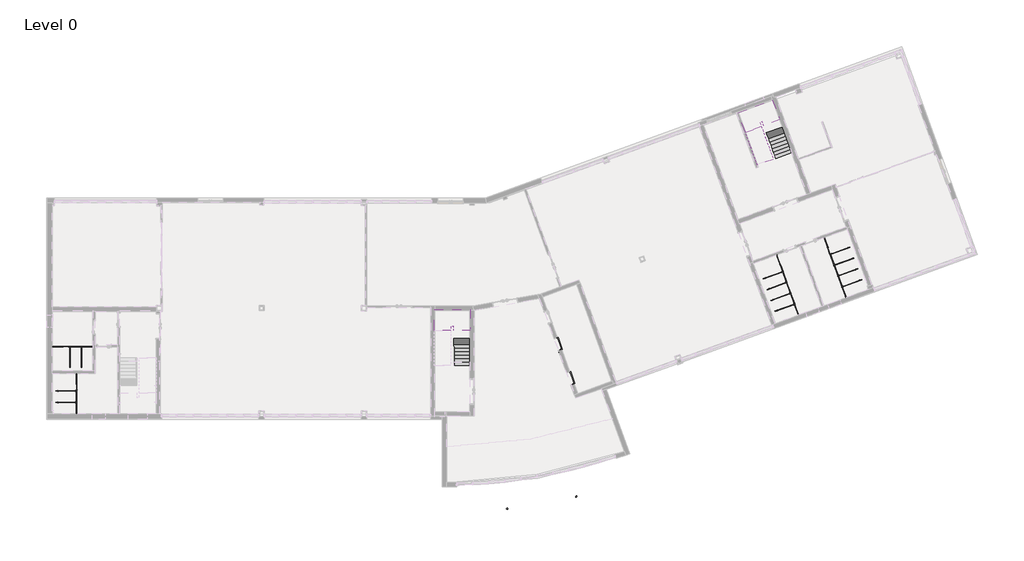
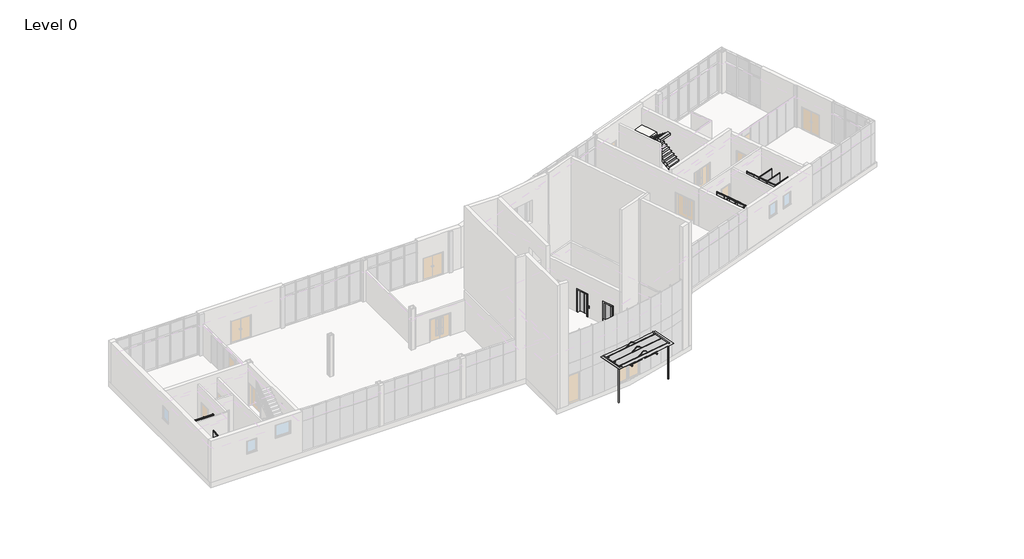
# One storey, part 14 of 14: 20 flow terminals, 3 proxies, 3 stair flights, 2 slabs.
"""IFC4 building model written with IfcOpenShell, lengths in millimetres."""

from ifc_helpers import new_model, si_unit, frame, origin, place, context, project, spatial, polyline, outline, extrude, faceted_brep, transform, mapped, element, save
from components import commercial_canopy_entrance_cladding_canopy_659b45ad, specialty_equipment_lift_assembly_13_person_wide_car_fb916a52, flow_terminal_2100mm_height_12b2e6eb, flow_terminal_2100mm_height_2c32aa6e, flow_terminal_2100mm_height_1f2eed72, flow_terminal_2100mm_height_0595ce71, flow_terminal_2100mm_height_6680c838, plumbing_fixtures_cubicle_corner_end_2100mm_height_8010d271, plumbing_fixtures_cubicle_corner_end_2100mm_height_71efdfa1

model = new_model("IFC4")

# Units and contexts
model_context = context("Model", 3, world=origin())
ifc_project = project(units=[si_unit("LENGTHUNIT", "METRE", prefix="MILLI")], contexts=[model_context])

# Site, building, storey
site = spatial("IfcSite", under=ifc_project)
building = spatial("IfcBuilding", under=site)
storey = spatial("IfcBuildingStorey", under=building, Name="Level 0", Elevation=0.0)

# Proxies
placement = place(None, origin())
commercial_canopy_entrance_cladding_canopy_shape = commercial_canopy_entrance_cladding_canopy_659b45ad(model_context)
element("IfcBuildingElementProxy", 1, Name="Commercial_Canopy_Entrance : Cladding_Canopy", ObjectType="Commercial_Canopy_Entrance : Cladding_Canopy", at=placement, inside=storey, context=model_context, shape_type="MappedRepresentation", body=[
    mapped(commercial_canopy_entrance_cladding_canopy_shape, transform((35218.8424739, -4156.0059595, 0.0), x_axis=(0.984821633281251, 0.1735694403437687, 0.0), y_axis=(-0.1735694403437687, 0.984821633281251, 0.0), z_axis=(0.0, 0.0, 1.0))),
])
specialty_equipment_lift_assembly_13_person_wide_car_shape = specialty_equipment_lift_assembly_13_person_wide_car_fb916a52(model_context)
element("IfcBuildingElementProxy", 2, Name="Specialty_Equipment_Lift_Assembly : 13_Person-Wide_Car", ObjectType="Specialty_Equipment_Lift_Assembly : 13_Person-Wide_Car", at=placement, inside=storey, context=model_context, shape_type="MappedRepresentation", body=[
    mapped(specialty_equipment_lift_assembly_13_person_wide_car_shape, transform((36402.6729068, 5528.4769863, 0.0), x_axis=(-0.34202014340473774, 0.9396926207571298, 0.0), y_axis=(-0.9396926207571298, -0.34202014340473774, 0.0), z_axis=(0.0, 0.0, 1.0))),
])
element("IfcBuildingElementProxy", 3, Name="Specialty_Equipment_Lift_Assembly : 13_Person-Wide_Car", ObjectType="Specialty_Equipment_Lift_Assembly : 13_Person-Wide_Car", at=placement, inside=storey, context=model_context, shape_type="MappedRepresentation", body=[
    mapped(specialty_equipment_lift_assembly_13_person_wide_car_shape, transform((37291.5468022, 3086.3160308, 0.0), x_axis=(-0.34202014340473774, 0.9396926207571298, 0.0), y_axis=(-0.9396926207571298, -0.34202014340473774, 0.0), z_axis=(0.0, 0.0, 1.0))),
])

# Flow terminals
flow_terminal_2100mm_height_shape = flow_terminal_2100mm_height_12b2e6eb(model_context)
element("IfcFlowTerminal", 4, ObjectType="Plumbing_Fixtures_Toilet_Cubicle_End_Adjacent_Wall : 2100mm_Height", at=placement, inside=storey, context=model_context, shape_type="MappedRepresentation", body=[
    mapped(flow_terminal_2100mm_height_shape, transform((50541.393351, 10685.9180507, 0.0), x_axis=(-0.3420201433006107, 0.9396926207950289, 0.0), y_axis=(-0.9396926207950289, -0.3420201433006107, 0.0), z_axis=(0.0, 0.0, 1.0))),
])
element("IfcFlowTerminal", 5, ObjectType="Plumbing_Fixtures_Toilet_Cubicle_End_Adjacent_Wall : 2100mm_Height", at=placement, inside=storey, context=model_context, shape_type="MappedRepresentation", body=[
    mapped(flow_terminal_2100mm_height_shape, transform((383.0, 2814.5689301, 0.0), x_axis=(2.5442148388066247e-11, 1.0, 0.0), y_axis=(-1.0, 2.5442148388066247e-11, 0.0), z_axis=(0.0, 0.0, 1.0))),
])
element("IfcFlowTerminal", 6, ObjectType="Plumbing_Fixtures_Toilet_Cubicle_End_Adjacent_Wall : 2100mm_Height", at=placement, inside=storey, context=model_context, shape_type="MappedRepresentation", body=[
    mapped(flow_terminal_2100mm_height_shape, transform((830.9310712, 3326.5000005, 0.0), x_axis=(-1.0, 2.5443536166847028e-11, 0.0), y_axis=(-2.5443536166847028e-11, -1.0, 0.0), z_axis=(0.0, 0.0, 1.0))),
])
flow_terminal_2100mm_height_2_shape = flow_terminal_2100mm_height_2c32aa6e(model_context)
element("IfcFlowTerminal", 7, ObjectType="Plumbing_Fixtures_Toilet_Cubicle_End_Adjacent_Wall : 2100mm_Height", at=placement, inside=storey, context=model_context, shape_type="MappedRepresentation", body=[
    mapped(flow_terminal_2100mm_height_2_shape, transform((57283.6879051, 13139.9125789, 0.0), x_axis=(-0.3420201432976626, 0.9396926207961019, 0.0), y_axis=(-0.9396926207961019, -0.3420201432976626, 0.0), z_axis=(0.0, 0.0, 1.0))),
])
flow_terminal_2100mm_height_3_shape = flow_terminal_2100mm_height_1f2eed72(model_context)
element("IfcFlowTerminal", 8, ObjectType="Plumbing_Fixtures_Toile_Cubicle_Extension_Panel : 2100mm_Height", at=placement, inside=storey, context=model_context, shape_type="MappedRepresentation", body=[
    mapped(flow_terminal_2100mm_height_3_shape, transform((50976.9218015, 9489.3134675, 0.0), x_axis=(-0.34202014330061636, 0.9396926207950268, 0.0), y_axis=(-0.9396926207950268, -0.34202014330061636, 0.0), z_axis=(0.0, 0.0, 1.0))),
])
flow_terminal_2100mm_height_4_shape = flow_terminal_2100mm_height_0595ce71(model_context)
element("IfcFlowTerminal", 9, ObjectType="Plumbing_Fixtures_Toile_Cubicle_Extension_Panel : 2100mm_Height", at=placement, inside=storey, context=model_context, shape_type="MappedRepresentation", body=[
    mapped(flow_terminal_2100mm_height_4_shape, transform((57719.2163556, 11943.3079956, 0.0), x_axis=(-0.3420201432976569, 0.9396926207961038, 0.0), y_axis=(-0.9396926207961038, -0.3420201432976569, 0.0), z_axis=(0.0, 0.0, 1.0))),
])
flow_terminal_2100mm_height_5_shape = flow_terminal_2100mm_height_6680c838(model_context)
element("IfcFlowTerminal", 10, ObjectType="Plumbing_Fixtures_Toile_Cubicle_Extension_Panel : 2100mm_Height", at=placement, inside=storey, context=model_context, shape_type="MappedRepresentation", body=[
    mapped(flow_terminal_2100mm_height_5_shape, transform((383.0, 1565.0689299, 0.0), x_axis=(0.0, 1.0, 0.0), y_axis=(-1.0, 0.0, 0.0), z_axis=(0.0, 0.0, 1.0))),
])
element("IfcFlowTerminal", 11, ObjectType="Plumbing_Fixtures_Toile_Cubicle_Extension_Panel : 2100mm_Height", at=placement, inside=storey, context=model_context, shape_type="MappedRepresentation", body=[
    mapped(flow_terminal_2100mm_height_5_shape, transform((2080.4310713, 3326.5000005, 0.0), x_axis=(-1.0, 0.0, 0.0), y_axis=(0.0, -1.0, 0.0), z_axis=(0.0, 0.0, 1.0))),
])
plumbing_fixtures_cubicle_corner_end_2100mm_height_shape = plumbing_fixtures_cubicle_corner_end_2100mm_height_8010d271(model_context)
element("IfcFlowTerminal", 12, ObjectType="Plumbing_Fixtures_Cubicle_Corner_End : 2100mm_Height", at=placement, inside=storey, context=model_context, shape_type="MappedRepresentation", body=[
    mapped(plumbing_fixtures_cubicle_corner_end_2100mm_height_shape, transform((58572.2617435, 9599.5850544, 0.0), x_axis=(0.3420201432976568, -0.9396926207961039, 0.0), y_axis=(0.9396926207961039, 0.3420201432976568, 0.0), z_axis=(0.0, 0.0, 1.0))),
])
element("IfcFlowTerminal", 13, ObjectType="Plumbing_Fixtures_Cubicle_Corner_End : 2100mm_Height", at=placement, inside=storey, context=model_context, shape_type="MappedRepresentation", body=[
    mapped(plumbing_fixtures_cubicle_corner_end_2100mm_height_shape, transform((58291.805226, 10370.1330034, 0.0), x_axis=(0.3420201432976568, -0.9396926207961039, 0.0), y_axis=(0.9396926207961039, 0.3420201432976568, 0.0), z_axis=(0.0, 0.0, 1.0))),
])
element("IfcFlowTerminal", 14, ObjectType="Plumbing_Fixtures_Cubicle_Corner_End : 2100mm_Height", at=placement, inside=storey, context=model_context, shape_type="MappedRepresentation", body=[
    mapped(plumbing_fixtures_cubicle_corner_end_2100mm_height_shape, transform((58011.3487085, 11140.6809525, 0.0), x_axis=(0.3420201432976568, -0.9396926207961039, 0.0), y_axis=(0.9396926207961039, 0.3420201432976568, 0.0), z_axis=(0.0, 0.0, 1.0))),
])
element("IfcFlowTerminal", 15, ObjectType="Plumbing_Fixtures_Cubicle_Corner_End : 2100mm_Height", at=placement, inside=storey, context=model_context, shape_type="MappedRepresentation", body=[
    mapped(plumbing_fixtures_cubicle_corner_end_2100mm_height_shape, transform((57730.892191, 11911.2289015, 0.0), x_axis=(0.3420201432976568, -0.9396926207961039, 0.0), y_axis=(0.9396926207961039, 0.3420201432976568, 0.0), z_axis=(0.0, 0.0, 1.0))),
])
plumbing_fixtures_cubicle_corner_end_2100mm_height_2_shape = plumbing_fixtures_cubicle_corner_end_2100mm_height_71efdfa1(model_context)
element("IfcFlowTerminal", 16, ObjectType="Plumbing_Fixtures_Cubicle_Corner_End : 2100mm_Height", at=placement, inside=storey, context=model_context, shape_type="MappedRepresentation", body=[
    mapped(plumbing_fixtures_cubicle_corner_end_2100mm_height_2_shape, transform((51829.9671894, 7145.5905262, 0.0), x_axis=(0.3420201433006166, -0.9396926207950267, 0.0), y_axis=(0.9396926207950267, 0.3420201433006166, 0.0), z_axis=(0.0, 0.0, 1.0))),
])
element("IfcFlowTerminal", 17, ObjectType="Plumbing_Fixtures_Cubicle_Corner_End : 2100mm_Height", at=placement, inside=storey, context=model_context, shape_type="MappedRepresentation", body=[
    mapped(plumbing_fixtures_cubicle_corner_end_2100mm_height_2_shape, transform((51549.5106719, 7916.1384753, 0.0), x_axis=(0.3420201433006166, -0.9396926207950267, 0.0), y_axis=(0.9396926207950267, 0.3420201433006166, 0.0), z_axis=(0.0, 0.0, 1.0))),
])
element("IfcFlowTerminal", 18, ObjectType="Plumbing_Fixtures_Cubicle_Corner_End : 2100mm_Height", at=placement, inside=storey, context=model_context, shape_type="MappedRepresentation", body=[
    mapped(plumbing_fixtures_cubicle_corner_end_2100mm_height_2_shape, transform((51269.0541544, 8686.6864243, 0.0), x_axis=(0.3420201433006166, -0.9396926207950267, 0.0), y_axis=(0.9396926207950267, 0.3420201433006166, 0.0), z_axis=(0.0, 0.0, 1.0))),
])
element("IfcFlowTerminal", 19, ObjectType="Plumbing_Fixtures_Cubicle_Corner_End : 2100mm_Height", at=placement, inside=storey, context=model_context, shape_type="MappedRepresentation", body=[
    mapped(plumbing_fixtures_cubicle_corner_end_2100mm_height_2_shape, transform((50988.5976369, 9457.2343734, 0.0), x_axis=(0.3420201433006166, -0.9396926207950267, 0.0), y_axis=(0.9396926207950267, 0.3420201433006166, 0.0), z_axis=(0.0, 0.0, 1.0))),
])
element("IfcFlowTerminal", 20, ObjectType="Plumbing_Fixtures_Cubicle_Corner_End : 2100mm_Height", at=placement, inside=storey, context=model_context, shape_type="MappedRepresentation", body=[
    mapped(plumbing_fixtures_cubicle_corner_end_2100mm_height_2_shape, transform((383.0, 710.9310711, 0.0), x_axis=(-2.5442148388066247e-11, -1.0, 0.0), y_axis=(1.0, -2.5442148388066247e-11, 0.0), z_axis=(0.0, 0.0, 1.0))),
])
element("IfcFlowTerminal", 21, ObjectType="Plumbing_Fixtures_Cubicle_Corner_End : 2100mm_Height", at=placement, inside=storey, context=model_context, shape_type="MappedRepresentation", body=[
    mapped(plumbing_fixtures_cubicle_corner_end_2100mm_height_2_shape, transform((383.0, 1530.9310711, 0.0), x_axis=(-2.5442148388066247e-11, -1.0, 0.0), y_axis=(1.0, -2.5442148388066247e-11, 0.0), z_axis=(0.0, 0.0, 1.0))),
])
element("IfcFlowTerminal", 22, ObjectType="Plumbing_Fixtures_Cubicle_Corner_End : 2100mm_Height", at=placement, inside=storey, context=model_context, shape_type="MappedRepresentation", body=[
    mapped(plumbing_fixtures_cubicle_corner_end_2100mm_height_2_shape, transform((2934.5689301, 3326.5000005, 0.0), x_axis=(1.0, -2.5443536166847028e-11, 0.0), y_axis=(2.5443536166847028e-11, 1.0, 0.0), z_axis=(0.0, 0.0, 1.0))),
])
element("IfcFlowTerminal", 23, ObjectType="Plumbing_Fixtures_Cubicle_Corner_End : 2100mm_Height", at=placement, inside=storey, context=model_context, shape_type="MappedRepresentation", body=[
    mapped(plumbing_fixtures_cubicle_corner_end_2100mm_height_2_shape, transform((2114.5689301, 3326.5000005, 0.0), x_axis=(1.0, -2.5443536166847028e-11, 0.0), y_axis=(2.5443536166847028e-11, 1.0, 0.0), z_axis=(0.0, 0.0, 1.0))),
])

# Slabs
element("IfcSlab", 24, ObjectType="8\" Thickness", at=placement, inside=storey, context=model_context, shape_type="SolidModel", body=[
    faceted_brep([(29052.2000029, 6263.2000006, 1949.0), (30252.200003, 6263.2000006, 1949.0), (30252.200003, 6490.4719159, 1949.0), (30252.200003, 7763.2000004, 1949.0), (27662.2000031, 7763.2000004, 1949.0), (27662.2000031, 6285.9280852, 1949.0), (27662.2000031, 6263.2000006, 1949.0), (28862.2000029, 6263.2000006, 1949.0), (28862.2000029, 6285.9280852, 1949.0), (28862.2000029, 6563.2000006, 1949.0), (29052.2000029, 6563.2000006, 1949.0), (29052.2000029, 6490.4719159, 1949.0), (29052.2000029, 6263.2000006, 1587.8435509), (29052.2000029, 6263.2000006, 1771.7272727), (29052.2000029, 6563.2000006, 1749.0), (29052.2000029, 6490.4719159, 1749.0), (30252.200003, 6263.2000006, 1771.7272727), (30252.200003, 6263.2000006, 1587.8435509), (30252.200003, 6490.4719159, 1749.0), (30252.200003, 7763.2000004, 1749.0), (28862.2000029, 6263.2000006, 1765.1162782), (28862.2000029, 6285.9280852, 1749.0), (28862.2000029, 6563.2000006, 1749.0), (27662.2000031, 6285.9280852, 1749.0), (27662.2000031, 7763.2000004, 1749.0), (27662.2000031, 6263.2000006, 1765.1162782)], [[[0, 1, 2, 3, 4, 5, 6, 7, 8, 9, 10, 11]], [[12, 13, 0, 11, 10, 14, 15]], [[1, 16, 17, 18, 19, 3, 2]], [[7, 20, 21, 22, 9, 8]], [[18, 15, 14, 22, 21, 23, 24, 19]], [[15, 18, 17, 12]], [[23, 21, 20, 25]], [[1, 0, 13, 12, 17, 16]], [[4, 3, 19, 24]], [[4, 24, 23, 25, 6, 5]], [[7, 6, 25, 20]], [[10, 9, 22, 14]]]),
    extrude(outline(polyline([(29052.2000029, 6263.2000006), (29052.2000029, 6563.2000006), (28862.2000029, 6563.2000006), (28862.2000029, 6263.2000006), (27662.2000031, 6263.2000006), (27662.2000031, 7763.2000004), (30252.200003, 7763.2000004), (30252.200003, 6263.2000006), (29052.2000029, 6263.2000006)])), frame((0.0, 0.0, 1949.0), z_axis=(0.0, 0.0, 1.0), x_axis=(1.0, 0.0, 0.0)), (0.0, 0.0, 1.0), 1.0),
])
element("IfcSlab", 25, ObjectType="8\" Thickness", at=placement, inside=storey, context=model_context, shape_type="SolidModel", body=[
    faceted_brep([(51174.021156, 20890.1085605, 1949.0), (52301.652301, 21300.5327324, 1949.0), (52223.920728, 21514.0984742, 1949.0), (51788.6220861, 22710.0716635, 1949.0), (49354.8181983, 21824.2394924, 1949.0), (49860.0749505, 20436.0579748, 1949.0), (49867.8484132, 20414.7005613, 1949.0), (50995.479558, 20825.1247332, 1949.0), (50987.7060952, 20846.4821467, 1949.0), (50892.873515, 21107.0325195, 1949.0), (51071.415113, 21172.0163467, 1949.0), (51096.2895829, 21103.6743022, 1949.0), (51174.021156, 20890.1085605, 1587.8435509), (51174.021156, 20890.1085605, 1771.7272727), (51071.415113, 21172.0163467, 1749.0), (51096.2895829, 21103.6743022, 1749.0), (52301.652301, 21300.5327324, 1771.7272727), (52301.652301, 21300.5327324, 1587.8435509), (52223.920728, 21514.0984742, 1749.0), (51788.6220861, 22710.0716635, 1749.0), (50995.479558, 20825.1247332, 1765.1162782), (50987.7060952, 20846.4821467, 1749.0), (50892.873515, 21107.0325195, 1749.0), (49860.0749505, 20436.0579748, 1749.0), (49354.8181983, 21824.2394924, 1749.0), (49867.8484132, 20414.7005613, 1765.1162782)], [[[0, 1, 2, 3, 4, 5, 6, 7, 8, 9, 10, 11]], [[12, 13, 0, 11, 10, 14, 15]], [[1, 16, 17, 18, 19, 3, 2]], [[7, 20, 21, 22, 9, 8]], [[18, 15, 14, 22, 21, 23, 24, 19]], [[15, 18, 17, 12]], [[23, 21, 20, 25]], [[1, 0, 13, 12, 17, 16]], [[4, 3, 19, 24]], [[4, 24, 23, 25, 6, 5]], [[7, 6, 25, 20]], [[10, 9, 22, 14]]]),
    extrude(outline(polyline([(51174.021156, 20890.1085605), (51071.415113, 21172.0163467), (50892.873515, 21107.0325195), (50995.479558, 20825.1247332), (49867.8484132, 20414.7005613), (49354.8181983, 21824.2394924), (51788.6220861, 22710.0716635), (52301.652301, 21300.5327324), (51174.021156, 20890.1085605)])), frame((0.0, 0.0, 1949.0), z_axis=(0.0, 0.0, 1.0), x_axis=(1.0, 0.0, 0.0)), (0.0, 0.0, 1.0), 1.0),
])

# Stair flights
element("IfcStairFlight", 26, ObjectType="1/16\"_Tread-6\"_Depth", at=placement, inside=storey, context=model_context, shape_type="SolidModel", body=[
    faceted_brep([(29052.2000029, 4013.2000006, 176.2727273), (29052.2000029, 3763.2000006, 176.2727273), (30252.200003, 3763.2000006, 176.2727273), (30252.200003, 4013.2000006, 176.2727273), (29052.2000029, 4013.2000006, 0.0), (29052.2000029, 3763.2000006, 0.0), (30252.200003, 3763.2000006, 0.0), (30252.200003, 4013.2000006, 0.0), (29052.2000029, 4263.2000006, 353.5454545), (29052.2000029, 4013.2000006, 353.5454545), (30252.200003, 4013.2000006, 353.5454545), (30252.200003, 4263.2000006, 353.5454545), (29052.2000029, 4263.2000006, 169.6617328), (29052.2000029, 4023.9334544, 0.0), (30252.200003, 4023.9334544, 0.0), (30252.200003, 4263.2000006, 169.6617328), (29052.2000029, 4513.2000006, 530.8181818), (29052.2000029, 4263.2000006, 530.8181818), (30252.200003, 4263.2000006, 530.8181818), (30252.200003, 4513.2000006, 530.8181818), (29052.2000029, 4513.2000006, 346.93446), (30252.200003, 4513.2000006, 346.93446), (29052.2000029, 4763.2000006, 708.0909091), (29052.2000029, 4513.2000006, 708.0909091), (30252.200003, 4513.2000006, 708.0909091), (30252.200003, 4763.2000006, 708.0909091), (29052.2000029, 4763.2000006, 524.2071873), (30252.200003, 4763.2000006, 524.2071873), (29052.2000029, 5013.2000006, 885.3636364), (29052.2000029, 4763.2000006, 885.3636364), (30252.200003, 4763.2000006, 885.3636364), (30252.200003, 5013.2000006, 885.3636364), (29052.2000029, 5013.2000006, 701.4799146), (30252.200003, 5013.2000006, 701.4799146), (29052.2000029, 5263.2000006, 1062.6363636), (29052.2000029, 5013.2000006, 1062.6363636), (30252.200003, 5013.2000006, 1062.6363636), (30252.200003, 5263.2000006, 1062.6363636), (29052.2000029, 5263.2000006, 878.7526418), (30252.200003, 5263.2000006, 878.7526418), (29052.2000029, 5513.2000006, 1239.9090909), (29052.2000029, 5263.2000006, 1239.9090909), (30252.200003, 5263.2000006, 1239.9090909), (30252.200003, 5513.2000006, 1239.9090909), (29052.2000029, 5513.2000006, 1056.0253691), (30252.200003, 5513.2000006, 1056.0253691), (29052.2000029, 5763.2000006, 1417.1818182), (29052.2000029, 5513.2000006, 1417.1818182), (30252.200003, 5513.2000006, 1417.1818182), (30252.200003, 5763.2000006, 1417.1818182), (29052.2000029, 5763.2000006, 1233.2980964), (30252.200003, 5763.2000006, 1233.2980964), (29052.2000029, 6013.2000006, 1594.4545455), (29052.2000029, 5763.2000006, 1594.4545455), (30252.200003, 5763.2000006, 1594.4545455), (30252.200003, 6013.2000006, 1594.4545455), (29052.2000029, 6013.2000006, 1410.5708237), (30252.200003, 6013.2000006, 1410.5708237), (29052.2000029, 6263.2000006, 1587.8435509), (30252.200003, 6263.2000006, 1587.8435509), (29052.2000029, 6263.2000006, 1771.7272727), (29052.2000029, 6013.2000006, 1771.7272727), (30252.200003, 6013.2000006, 1771.7272727), (30252.200003, 6263.2000006, 1771.7272727)], [[[0, 1, 2, 3]], [[1, 0, 4, 5]], [[2, 1, 5, 6]], [[3, 2, 6, 7]], [[8, 9, 10, 11]], [[4, 0, 9, 8, 12, 13]], [[0, 3, 10, 9]], [[3, 7, 14, 15, 11, 10]], [[16, 17, 18, 19]], [[17, 16, 20, 12, 8]], [[8, 11, 18, 17]], [[19, 18, 11, 15, 21]], [[22, 23, 24, 25]], [[23, 22, 26, 20, 16]], [[16, 19, 24, 23]], [[25, 24, 19, 21, 27]], [[28, 29, 30, 31]], [[29, 28, 32, 26, 22]], [[22, 25, 30, 29]], [[31, 30, 25, 27, 33]], [[34, 35, 36, 37]], [[35, 34, 38, 32, 28]], [[28, 31, 36, 35]], [[37, 36, 31, 33, 39]], [[40, 41, 42, 43]], [[41, 40, 44, 38, 34]], [[34, 37, 42, 41]], [[43, 42, 37, 39, 45]], [[46, 47, 48, 49]], [[47, 46, 50, 44, 40]], [[40, 43, 48, 47]], [[49, 48, 43, 45, 51]], [[52, 53, 54, 55]], [[53, 52, 56, 50, 46]], [[46, 49, 54, 53]], [[55, 54, 49, 51, 57]], [[5, 4, 13, 14, 7, 6]], [[14, 13, 12, 20, 26, 32, 38, 44, 50, 56, 58, 59, 57, 51, 45, 39, 33, 27, 21, 15]], [[60, 61, 62, 63]], [[61, 60, 58, 56, 52]], [[52, 55, 62, 61]], [[63, 62, 55, 57, 59]], [[60, 63, 59, 58]]]),
    extrude(outline(polyline([(29052.2000029, 4013.2000006), (30252.200003, 4013.2000006), (30252.200003, 3763.2000006), (29052.2000029, 3763.2000006), (29052.2000029, 4013.2000006)])), frame((0.0, 0.0, 176.2727273), z_axis=(0.0, 0.0, 1.0), x_axis=(1.0, 0.0, 0.0)), (0.0, 0.0, 1.0), 1.0),
    extrude(outline(polyline([(29052.2000029, 4263.2000006), (30252.200003, 4263.2000006), (30252.200003, 4013.2000006), (29052.2000029, 4013.2000006), (29052.2000029, 4263.2000006)])), frame((0.0, 0.0, 353.5454545), z_axis=(0.0, 0.0, 1.0), x_axis=(1.0, 0.0, 0.0)), (0.0, 0.0, 1.0), 1.0),
    extrude(outline(polyline([(29052.2000029, 4513.2000006), (30252.200003, 4513.2000006), (30252.200003, 4263.2000006), (29052.2000029, 4263.2000006), (29052.2000029, 4513.2000006)])), frame((0.0, 0.0, 530.8181818), z_axis=(0.0, 0.0, 1.0), x_axis=(1.0, 0.0, 0.0)), (0.0, 0.0, 1.0), 1.0),
    extrude(outline(polyline([(29052.2000029, 4763.2000006), (30252.200003, 4763.2000006), (30252.200003, 4513.2000006), (29052.2000029, 4513.2000006), (29052.2000029, 4763.2000006)])), frame((0.0, 0.0, 708.0909091), z_axis=(0.0, 0.0, 1.0), x_axis=(1.0, 0.0, 0.0)), (0.0, 0.0, 1.0), 1.0),
    extrude(outline(polyline([(29052.2000029, 5013.2000006), (30252.200003, 5013.2000006), (30252.200003, 4763.2000006), (29052.2000029, 4763.2000006), (29052.2000029, 5013.2000006)])), frame((0.0, 0.0, 885.3636364), z_axis=(0.0, 0.0, 1.0), x_axis=(1.0, 0.0, 0.0)), (0.0, 0.0, 1.0), 1.0),
    extrude(outline(polyline([(29052.2000029, 5263.2000006), (30252.200003, 5263.2000006), (30252.200003, 5013.2000006), (29052.2000029, 5013.2000006), (29052.2000029, 5263.2000006)])), frame((0.0, 0.0, 1062.6363636), z_axis=(0.0, 0.0, 1.0), x_axis=(1.0, 0.0, 0.0)), (0.0, 0.0, 1.0), 1.0),
    extrude(outline(polyline([(29052.2000029, 5513.2000006), (30252.200003, 5513.2000006), (30252.200003, 5263.2000006), (29052.2000029, 5263.2000006), (29052.2000029, 5513.2000006)])), frame((0.0, 0.0, 1239.9090909), z_axis=(0.0, 0.0, 1.0), x_axis=(1.0, 0.0, 0.0)), (0.0, 0.0, 1.0), 1.0),
    extrude(outline(polyline([(29052.2000029, 5763.2000006), (30252.200003, 5763.2000006), (30252.200003, 5513.2000006), (29052.2000029, 5513.2000006), (29052.2000029, 5763.2000006)])), frame((0.0, 0.0, 1417.1818182), z_axis=(0.0, 0.0, 1.0), x_axis=(1.0, 0.0, 0.0)), (0.0, 0.0, 1.0), 1.0),
    extrude(outline(polyline([(29052.2000029, 6013.2000006), (30252.200003, 6013.2000006), (30252.200003, 5763.2000006), (29052.2000029, 5763.2000006), (29052.2000029, 6013.2000006)])), frame((0.0, 0.0, 1594.4545455), z_axis=(0.0, 0.0, 1.0), x_axis=(1.0, 0.0, 0.0)), (0.0, 0.0, 1.0), 1.0),
    extrude(outline(polyline([(29052.2000029, 6263.2000006), (30252.200003, 6263.2000006), (30252.200003, 6013.2000006), (29052.2000029, 6013.2000006), (29052.2000029, 6263.2000006)])), frame((0.0, 0.0, 1771.7272727), z_axis=(0.0, 0.0, 1.0), x_axis=(1.0, 0.0, 0.0)), (0.0, 0.0, 1.0), 1.0),
])
element("IfcStairFlight", 27, ObjectType="1/16\"_Tread-6\"_Depth", at=placement, inside=storey, context=model_context, shape_type="SolidModel", body=[
    faceted_brep([(51943.5664784, 18775.8001637, 176.2727273), (52029.0715142, 18540.8770085, 176.2727273), (53156.7026593, 18951.3011804, 176.2727273), (53071.1976234, 19186.2243356, 176.2727273), (51943.5664784, 18775.8001637, 0.0), (52029.0715142, 18540.8770085, 0.0), (53156.7026593, 18951.3011804, 0.0), (53071.1976234, 19186.2243356, 0.0), (51858.0614426, 19010.7233189, 353.5454545), (51943.5664784, 18775.8001637, 353.5454545), (53071.1976234, 19186.2243356, 353.5454545), (52985.6925876, 19421.1474908, 353.5454545), (51858.0614426, 19010.7233189, 169.6617328), (51939.895421, 18785.886311, 0.0), (53067.526566, 19196.310483, 0.0), (52985.6925876, 19421.1474908, 169.6617328), (51772.5564067, 19245.6464741, 530.8181818), (51858.0614426, 19010.7233189, 530.8181818), (52985.6925876, 19421.1474908, 530.8181818), (52900.1875518, 19656.070646, 530.8181818), (51772.5564067, 19245.6464741, 346.93446), (52900.1875518, 19656.070646, 346.93446), (51687.0513709, 19480.5696293, 708.0909091), (51772.5564067, 19245.6464741, 708.0909091), (52900.1875518, 19656.070646, 708.0909091), (52814.682516, 19890.9938012, 708.0909091), (51687.0513709, 19480.5696293, 524.2071873), (52814.682516, 19890.9938012, 524.2071873), (51601.5463351, 19715.4927845, 885.3636364), (51687.0513709, 19480.5696293, 885.3636364), (52814.682516, 19890.9938012, 885.3636364), (52729.1774801, 20125.9169564, 885.3636364), (51601.5463351, 19715.4927845, 701.4799146), (52729.1774801, 20125.9169564, 701.4799146), (51516.0412993, 19950.4159397, 1062.6363636), (51601.5463351, 19715.4927845, 1062.6363636), (52729.1774801, 20125.9169564, 1062.6363636), (52643.6724443, 20360.8401116, 1062.6363636), (51516.0412993, 19950.4159397, 878.7526418), (52643.6724443, 20360.8401116, 878.7526418), (51430.5362634, 20185.3390949, 1239.9090909), (51516.0412993, 19950.4159397, 1239.9090909), (52643.6724443, 20360.8401116, 1239.9090909), (52558.1674085, 20595.7632668, 1239.9090909), (51430.5362634, 20185.3390949, 1056.0253691), (52558.1674085, 20595.7632668, 1056.0253691), (51345.0312276, 20420.2622501, 1417.1818182), (51430.5362634, 20185.3390949, 1417.1818182), (52558.1674085, 20595.7632668, 1417.1818182), (52472.6623727, 20830.686422, 1417.1818182), (51345.0312276, 20420.2622501, 1233.2980964), (52472.6623727, 20830.686422, 1233.2980964), (51259.5261918, 20655.1854053, 1594.4545455), (51345.0312276, 20420.2622501, 1594.4545455), (52472.6623727, 20830.686422, 1594.4545455), (52387.1573368, 21065.6095772, 1594.4545455), (51259.5261918, 20655.1854053, 1410.5708237), (52387.1573368, 21065.6095772, 1410.5708237), (51174.021156, 20890.1085605, 1587.8435509), (52301.652301, 21300.5327324, 1587.8435509), (51174.021156, 20890.1085605, 1771.7272727), (51259.5261918, 20655.1854053, 1771.7272727), (52387.1573368, 21065.6095772, 1771.7272727), (52301.652301, 21300.5327324, 1771.7272727)], [[[0, 1, 2, 3]], [[1, 0, 4, 5]], [[2, 1, 5, 6]], [[3, 2, 6, 7]], [[8, 9, 10, 11]], [[4, 0, 9, 8, 12, 13]], [[0, 3, 10, 9]], [[3, 7, 14, 15, 11, 10]], [[16, 17, 18, 19]], [[17, 16, 20, 12, 8]], [[8, 11, 18, 17]], [[19, 18, 11, 15, 21]], [[22, 23, 24, 25]], [[23, 22, 26, 20, 16]], [[16, 19, 24, 23]], [[25, 24, 19, 21, 27]], [[28, 29, 30, 31]], [[29, 28, 32, 26, 22]], [[22, 25, 30, 29]], [[31, 30, 25, 27, 33]], [[34, 35, 36, 37]], [[35, 34, 38, 32, 28]], [[28, 31, 36, 35]], [[37, 36, 31, 33, 39]], [[40, 41, 42, 43]], [[41, 40, 44, 38, 34]], [[34, 37, 42, 41]], [[43, 42, 37, 39, 45]], [[46, 47, 48, 49]], [[47, 46, 50, 44, 40]], [[40, 43, 48, 47]], [[49, 48, 43, 45, 51]], [[52, 53, 54, 55]], [[53, 52, 56, 50, 46]], [[46, 49, 54, 53]], [[55, 54, 49, 51, 57]], [[5, 4, 13, 14, 7, 6]], [[14, 13, 12, 20, 26, 32, 38, 44, 50, 56, 58, 59, 57, 51, 45, 39, 33, 27, 21, 15]], [[60, 61, 62, 63]], [[61, 60, 58, 56, 52]], [[52, 55, 62, 61]], [[63, 62, 55, 57, 59]], [[60, 63, 59, 58]]]),
    extrude(outline(polyline([(51943.5664784, 18775.8001637), (53071.1976234, 19186.2243356), (53156.7026593, 18951.3011804), (52029.0715142, 18540.8770085), (51943.5664784, 18775.8001637)])), frame((0.0, 0.0, 176.2727273), z_axis=(0.0, 0.0, 1.0), x_axis=(1.0, 0.0, 0.0)), (0.0, 0.0, 1.0), 1.0),
    extrude(outline(polyline([(51858.0614426, 19010.7233189), (52985.6925876, 19421.1474908), (53071.1976234, 19186.2243356), (51943.5664784, 18775.8001637), (51858.0614426, 19010.7233189)])), frame((0.0, 0.0, 353.5454545), z_axis=(0.0, 0.0, 1.0), x_axis=(1.0, 0.0, 0.0)), (0.0, 0.0, 1.0), 1.0),
    extrude(outline(polyline([(51772.5564067, 19245.6464741), (52900.1875518, 19656.070646), (52985.6925876, 19421.1474908), (51858.0614426, 19010.7233189), (51772.5564067, 19245.6464741)])), frame((0.0, 0.0, 530.8181818), z_axis=(0.0, 0.0, 1.0), x_axis=(1.0, 0.0, 0.0)), (0.0, 0.0, 1.0), 1.0),
    extrude(outline(polyline([(51687.0513709, 19480.5696293), (52814.682516, 19890.9938012), (52900.1875518, 19656.070646), (51772.5564067, 19245.6464741), (51687.0513709, 19480.5696293)])), frame((0.0, 0.0, 708.0909091), z_axis=(0.0, 0.0, 1.0), x_axis=(1.0, 0.0, 0.0)), (0.0, 0.0, 1.0), 1.0),
    extrude(outline(polyline([(51601.5463351, 19715.4927845), (52729.1774801, 20125.9169564), (52814.682516, 19890.9938012), (51687.0513709, 19480.5696293), (51601.5463351, 19715.4927845)])), frame((0.0, 0.0, 885.3636364), z_axis=(0.0, 0.0, 1.0), x_axis=(1.0, 0.0, 0.0)), (0.0, 0.0, 1.0), 1.0),
    extrude(outline(polyline([(51516.0412993, 19950.4159397), (52643.6724443, 20360.8401116), (52729.1774801, 20125.9169564), (51601.5463351, 19715.4927845), (51516.0412993, 19950.4159397)])), frame((0.0, 0.0, 1062.6363636), z_axis=(0.0, 0.0, 1.0), x_axis=(1.0, 0.0, 0.0)), (0.0, 0.0, 1.0), 1.0),
    extrude(outline(polyline([(51430.5362634, 20185.3390949), (52558.1674085, 20595.7632668), (52643.6724443, 20360.8401116), (51516.0412993, 19950.4159397), (51430.5362634, 20185.3390949)])), frame((0.0, 0.0, 1239.9090909), z_axis=(0.0, 0.0, 1.0), x_axis=(1.0, 0.0, 0.0)), (0.0, 0.0, 1.0), 1.0),
    extrude(outline(polyline([(51345.0312276, 20420.2622501), (52472.6623727, 20830.686422), (52558.1674085, 20595.7632668), (51430.5362634, 20185.3390949), (51345.0312276, 20420.2622501)])), frame((0.0, 0.0, 1417.1818182), z_axis=(0.0, 0.0, 1.0), x_axis=(1.0, 0.0, 0.0)), (0.0, 0.0, 1.0), 1.0),
    extrude(outline(polyline([(51259.5261918, 20655.1854053), (52387.1573368, 21065.6095772), (52472.6623727, 20830.686422), (51345.0312276, 20420.2622501), (51259.5261918, 20655.1854053)])), frame((0.0, 0.0, 1594.4545455), z_axis=(0.0, 0.0, 1.0), x_axis=(1.0, 0.0, 0.0)), (0.0, 0.0, 1.0), 1.0),
    extrude(outline(polyline([(51174.021156, 20890.1085605), (52301.652301, 21300.5327324), (52387.1573368, 21065.6095772), (51259.5261918, 20655.1854053), (51174.021156, 20890.1085605)])), frame((0.0, 0.0, 1771.7272727), z_axis=(0.0, 0.0, 1.0), x_axis=(1.0, 0.0, 0.0)), (0.0, 0.0, 1.0), 1.0),
])
element("IfcStairFlight", 28, ObjectType="1/16\"_Tread-6\"_Depth", at=placement, inside=storey, context=model_context, shape_type="SolidModel", body=[
    faceted_brep([(51080.9845938, 20590.201578, 2126.2727273), (50995.479558, 20825.1247332, 2126.2727273), (49867.8484132, 20414.7005613, 2126.2727273), (49953.3534491, 20179.7774061, 2126.2727273), (51080.9845938, 20590.201578, 1942.3890055), (50995.479558, 20825.1247332, 1765.1162782), (50995.479558, 20825.1247332, 1949.0), (49867.8484132, 20414.7005613, 1765.1162782), (49867.8484132, 20414.7005613, 1949.0), (49953.3534491, 20179.7774061, 1942.3890055), (51166.4896296, 20355.2784228, 2303.5454545), (51080.9845938, 20590.201578, 2303.5454545), (49953.3534491, 20179.7774061, 2303.5454545), (50038.8584849, 19944.8542509, 2303.5454545), (51166.4896296, 20355.2784228, 2119.6617328), (50038.8584849, 19944.8542509, 2119.6617328), (51251.9946655, 20120.3552676, 2480.8181818), (51166.4896296, 20355.2784228, 2480.8181818), (50038.8584849, 19944.8542509, 2480.8181818), (50124.3635207, 19709.9310957, 2480.8181818), (51251.9946655, 20120.3552676, 2296.93446), (50124.3635207, 19709.9310957, 2296.93446), (51337.4997013, 19885.4321124, 2658.0909091), (51251.9946655, 20120.3552676, 2658.0909091), (50124.3635207, 19709.9310957, 2658.0909091), (50209.8685565, 19475.0079405, 2658.0909091), (51337.4997013, 19885.4321124, 2474.2071873), (50209.8685565, 19475.0079405, 2474.2071873), (51423.0047371, 19650.5089572, 2835.3636364), (51337.4997013, 19885.4321124, 2835.3636364), (50209.8685565, 19475.0079405, 2835.3636364), (50295.3735924, 19240.0847853, 2835.3636364), (51423.0047371, 19650.5089572, 2651.4799146), (50295.3735924, 19240.0847853, 2651.4799146), (51508.5097729, 19415.585802, 3012.6363636), (51423.0047371, 19650.5089572, 3012.6363636), (50295.3735924, 19240.0847853, 3012.6363636), (50380.8786282, 19005.1616301, 3012.6363636), (51508.5097729, 19415.585802, 2828.7526418), (50380.8786282, 19005.1616301, 2828.7526418), (51594.0148088, 19180.6626468, 3189.9090909), (51508.5097729, 19415.585802, 3189.9090909), (50380.8786282, 19005.1616301, 3189.9090909), (50466.383664, 18770.2384749, 3189.9090909), (51594.0148088, 19180.6626468, 3006.0253691), (50466.383664, 18770.2384749, 3006.0253691), (51679.5198446, 18945.7394916, 3367.1818182), (51594.0148088, 19180.6626468, 3367.1818182), (50466.383664, 18770.2384749, 3367.1818182), (50551.8886998, 18535.3153197, 3367.1818182), (51679.5198446, 18945.7394916, 3183.2980964), (50551.8886998, 18535.3153197, 3183.2980964), (51765.0248804, 18710.8163364, 3544.4545455), (51679.5198446, 18945.7394916, 3544.4545455), (50551.8886998, 18535.3153197, 3544.4545455), (50637.3937356, 18300.3921645, 3544.4545455), (51765.0248804, 18710.8163364, 3360.5708237), (50637.3937356, 18300.3921645, 3360.5708237), (51850.5299162, 18475.8931812, 3537.8435509), (50722.8987715, 18065.4690093, 3537.8435509), (51850.5299162, 18475.8931812, 3721.7272727), (51765.0248804, 18710.8163364, 3721.7272727), (50637.3937356, 18300.3921645, 3721.7272727), (50722.8987715, 18065.4690093, 3721.7272727)], [[[0, 1, 2, 3]], [[1, 0, 4, 5, 6]], [[2, 1, 6, 5, 7, 8]], [[3, 2, 8, 7, 9]], [[10, 11, 12, 13]], [[11, 10, 14, 4, 0]], [[12, 11, 0, 3]], [[13, 12, 3, 9, 15]], [[16, 17, 18, 19]], [[17, 16, 20, 14, 10]], [[18, 17, 10, 13]], [[19, 18, 13, 15, 21]], [[22, 23, 24, 25]], [[23, 22, 26, 20, 16]], [[24, 23, 16, 19]], [[25, 24, 19, 21, 27]], [[28, 29, 30, 31]], [[29, 28, 32, 26, 22]], [[30, 29, 22, 25]], [[31, 30, 25, 27, 33]], [[34, 35, 36, 37]], [[35, 34, 38, 32, 28]], [[36, 35, 28, 31]], [[37, 36, 31, 33, 39]], [[40, 41, 42, 43]], [[41, 40, 44, 38, 34]], [[42, 41, 34, 37]], [[43, 42, 37, 39, 45]], [[46, 47, 48, 49]], [[47, 46, 50, 44, 40]], [[48, 47, 40, 43]], [[49, 48, 43, 45, 51]], [[52, 53, 54, 55]], [[53, 52, 56, 50, 46]], [[54, 53, 46, 49]], [[55, 54, 49, 51, 57]], [[5, 4, 14, 20, 26, 32, 38, 44, 50, 56, 58, 59, 57, 51, 45, 39, 33, 27, 21, 15, 9, 7]], [[60, 61, 62, 63]], [[61, 60, 58, 56, 52]], [[62, 61, 52, 55]], [[63, 62, 55, 57, 59]], [[60, 63, 59, 58]]]),
    extrude(outline(polyline([(51080.9845938, 20590.201578), (49953.3534491, 20179.7774061), (49867.8484132, 20414.7005613), (50995.479558, 20825.1247332), (51080.9845938, 20590.201578)])), frame((0.0, 0.0, 2126.2727273), z_axis=(0.0, 0.0, 1.0), x_axis=(1.0, 0.0, 0.0)), (0.0, 0.0, 1.0), 1.0),
    extrude(outline(polyline([(51166.4896296, 20355.2784228), (50038.8584849, 19944.8542509), (49953.3534491, 20179.7774061), (51080.9845938, 20590.201578), (51166.4896296, 20355.2784228)])), frame((0.0, 0.0, 2303.5454545), z_axis=(0.0, 0.0, 1.0), x_axis=(1.0, 0.0, 0.0)), (0.0, 0.0, 1.0), 1.0),
    extrude(outline(polyline([(51251.9946655, 20120.3552676), (50124.3635207, 19709.9310957), (50038.8584849, 19944.8542509), (51166.4896296, 20355.2784228), (51251.9946655, 20120.3552676)])), frame((0.0, 0.0, 2480.8181818), z_axis=(0.0, 0.0, 1.0), x_axis=(1.0, 0.0, 0.0)), (0.0, 0.0, 1.0), 1.0),
    extrude(outline(polyline([(51337.4997013, 19885.4321124), (50209.8685565, 19475.0079405), (50124.3635207, 19709.9310957), (51251.9946655, 20120.3552676), (51337.4997013, 19885.4321124)])), frame((0.0, 0.0, 2658.0909091), z_axis=(0.0, 0.0, 1.0), x_axis=(1.0, 0.0, 0.0)), (0.0, 0.0, 1.0), 1.0),
    extrude(outline(polyline([(51423.0047371, 19650.5089572), (50295.3735924, 19240.0847853), (50209.8685565, 19475.0079405), (51337.4997013, 19885.4321124), (51423.0047371, 19650.5089572)])), frame((0.0, 0.0, 2835.3636364), z_axis=(0.0, 0.0, 1.0), x_axis=(1.0, 0.0, 0.0)), (0.0, 0.0, 1.0), 1.0),
    extrude(outline(polyline([(51508.5097729, 19415.585802), (50380.8786282, 19005.1616301), (50295.3735924, 19240.0847853), (51423.0047371, 19650.5089572), (51508.5097729, 19415.585802)])), frame((0.0, 0.0, 3012.6363636), z_axis=(0.0, 0.0, 1.0), x_axis=(1.0, 0.0, 0.0)), (0.0, 0.0, 1.0), 1.0),
    extrude(outline(polyline([(51594.0148088, 19180.6626468), (50466.383664, 18770.2384749), (50380.8786282, 19005.1616301), (51508.5097729, 19415.585802), (51594.0148088, 19180.6626468)])), frame((0.0, 0.0, 3189.9090909), z_axis=(0.0, 0.0, 1.0), x_axis=(1.0, 0.0, 0.0)), (0.0, 0.0, 1.0), 1.0),
    extrude(outline(polyline([(51679.5198446, 18945.7394916), (50551.8886998, 18535.3153197), (50466.383664, 18770.2384749), (51594.0148088, 19180.6626468), (51679.5198446, 18945.7394916)])), frame((0.0, 0.0, 3367.1818182), z_axis=(0.0, 0.0, 1.0), x_axis=(1.0, 0.0, 0.0)), (0.0, 0.0, 1.0), 1.0),
    extrude(outline(polyline([(51765.0248804, 18710.8163364), (50637.3937356, 18300.3921645), (50551.8886998, 18535.3153197), (51679.5198446, 18945.7394916), (51765.0248804, 18710.8163364)])), frame((0.0, 0.0, 3544.4545455), z_axis=(0.0, 0.0, 1.0), x_axis=(1.0, 0.0, 0.0)), (0.0, 0.0, 1.0), 1.0),
    extrude(outline(polyline([(51850.5299162, 18475.8931812), (50722.8987715, 18065.4690093), (50637.3937356, 18300.3921645), (51765.0248804, 18710.8163364), (51850.5299162, 18475.8931812)])), frame((0.0, 0.0, 3721.7272727), z_axis=(0.0, 0.0, 1.0), x_axis=(1.0, 0.0, 0.0)), (0.0, 0.0, 1.0), 1.0),
])

save(model, "model.ifc")
